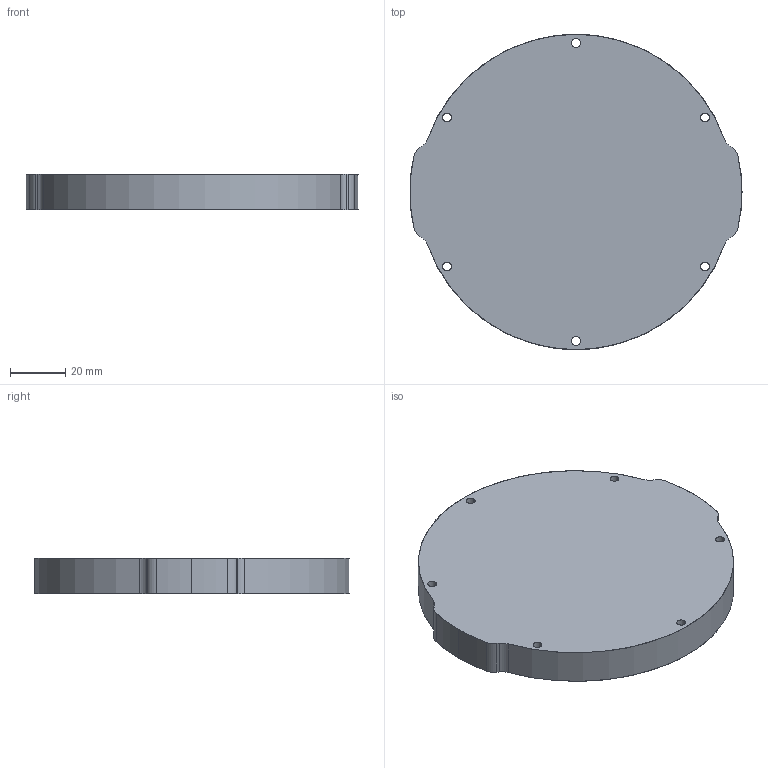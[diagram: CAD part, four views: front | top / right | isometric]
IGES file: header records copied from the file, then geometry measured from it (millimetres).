
Start section: SolidWorks IGES file using analytic representation for surfaces
Global section: file name: C:\Users\Brian\Dropbox\BR-Engineering\PROJECTS\WTE4\MODELS\RELEASES\PUBLIC\WTE4-P-END-CAP-R1.IGS; native system: SolidWorks 2016; preprocessor: SolidWorks 2016; author: Brian; date: 180604.123358; units: millimetre
Bounding box: 120.3 x 114.3 x 12.7 mm (x, y, z)
Surface area: 26228.2 mm2 (no closed solid volume)
Topology: 0 solids, 0 shells, 31 faces, 652 edges, 652 vertices
Faces by surface type: revolution 25, bspline 6
